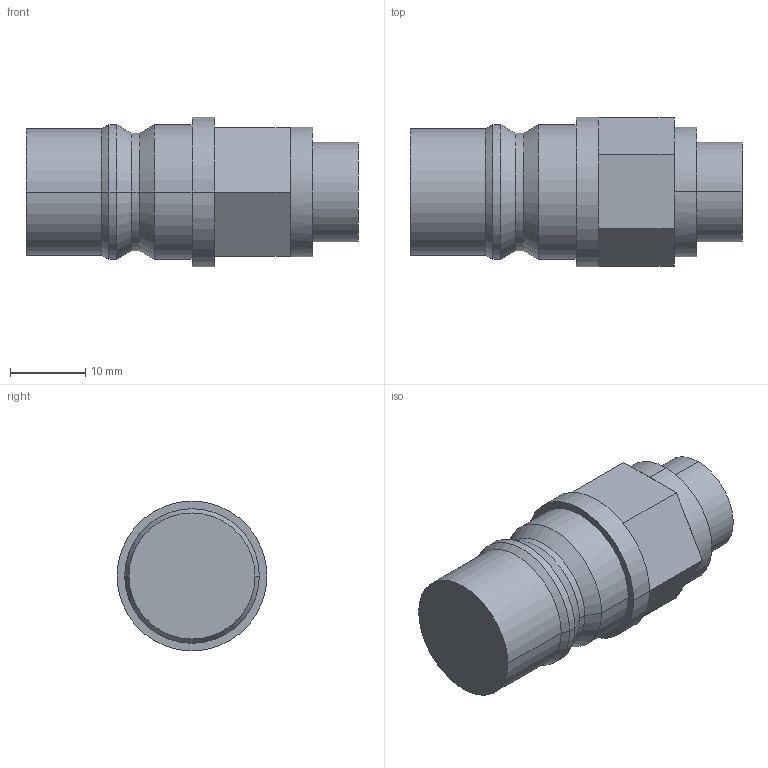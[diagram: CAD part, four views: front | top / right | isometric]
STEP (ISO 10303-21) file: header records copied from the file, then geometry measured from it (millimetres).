
FILE_DESCRIPTION (( 'STEP AP214' ), '1' );
FILE_NAME ('BR601.06 RRB 13.STEP', '2020-12-02T14:09:37', ( '' ), ( '' ), 'SwSTEP 2.0', 'SolidWorks 2018', '' );
FILE_SCHEMA (( 'AUTOMOTIVE_DESIGN' ));
Length unit declared in the file: millimetre
Products named in the file (1): BR601.06 RRB 13
Bounding box: 44 x 19.85 x 19.85 mm (x, y, z)
Volume: 9944.3 mm3; surface area: 2992 mm2
Topology: 1 solids, 1 shells, 43 faces, 90 edges, 52 vertices
Faces by surface type: plane 23, cylinder 14, cone 6
Entity records: 1166 total; most frequent: DIRECTION 218, CARTESIAN_POINT 186, ORIENTED_EDGE 180, EDGE_CURVE 90, AXIS2_PLACEMENT_3D 84, VERTEX_POINT 52, VECTOR 50, LINE 50
